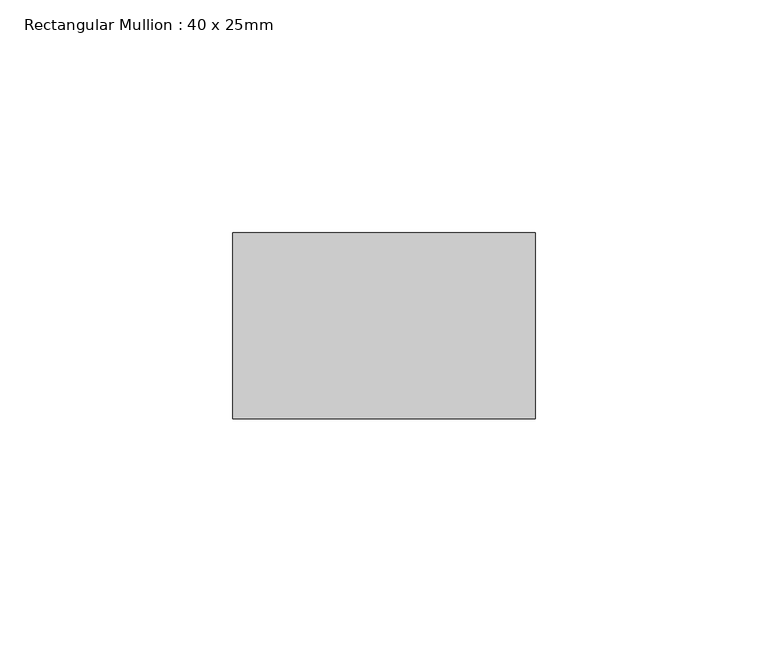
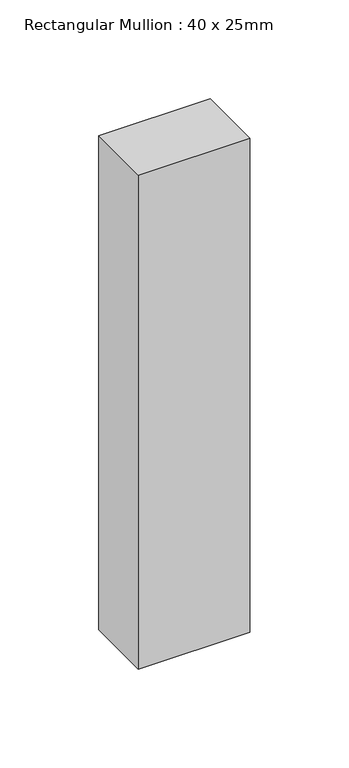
"""IFC4 building model written with IfcOpenShell, lengths in millimetres: member geometry, Rectangular Mullion : 40 x 25mm."""

from ifc_helpers import new_model, si_unit, frame, origin, place, context, project, spatial, polyline, outline, extrude, source, transform, mapped, element, save


def rectangular_mullion_40_x_25mm_61b580ed(model_context):
    return source(origin(), model_context, "Body", "SweptSolid", [
        extrude(outline(polyline([(0.0, -20.0), (0.0, -60.0), (-65.0, -60.0), (-65.0, -20.0), (0.0, -20.0)])), frame((0.0, 0.0, -305.0), z_axis=(0.0, 0.0, 1.0), x_axis=(1.0, 0.0, 0.0)), (0.0, 0.0, 1.0), 305.0),
    ])


if __name__ == "__main__":
    model = new_model("IFC4")
    model_context = context("Model", 3, world=origin())
    ifc_project = project(units=[si_unit("LENGTHUNIT", "METRE", prefix="MILLI")], contexts=[model_context])
    site = spatial("IfcSite", under=ifc_project)
    building = spatial("IfcBuilding", under=site)
    placement = place(None, origin())
    rectangular_mullion_40_x_25mm_shape = rectangular_mullion_40_x_25mm_61b580ed(model_context)
    element("IfcMember", 1, ObjectType="Rectangular Mullion : 40 x 25mm", at=placement, inside=building, context=model_context, shape_type="MappedRepresentation", body=[
        mapped(rectangular_mullion_40_x_25mm_shape, transform((0.0, 0.0, 0.0), x_axis=(1.0, 0.0, 0.0), y_axis=(0.0, 1.0, 0.0), z_axis=(0.0, 0.0, 1.0))),
    ])
    save(model, "model.ifc")
